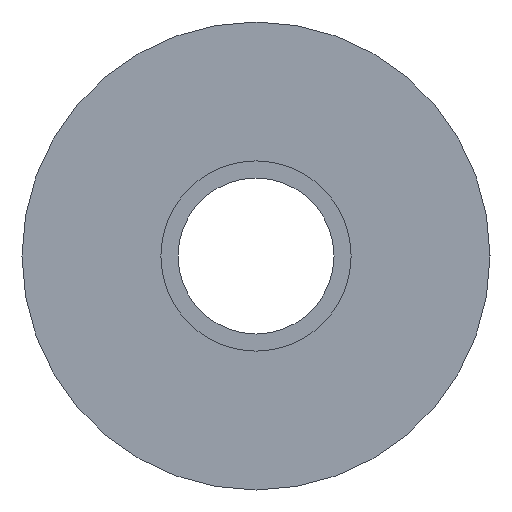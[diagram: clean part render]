
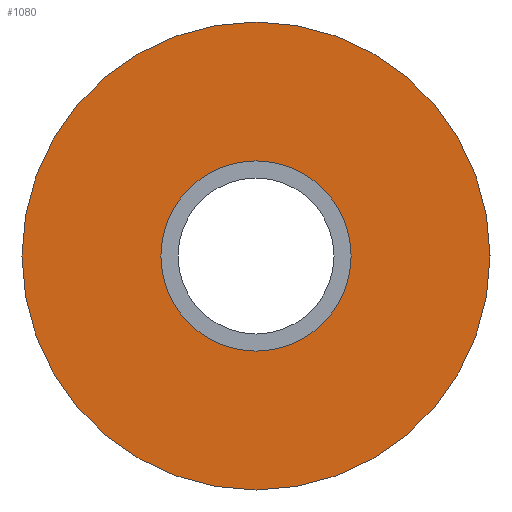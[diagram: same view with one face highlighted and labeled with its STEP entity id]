
A CAD part, left-side view. The second image highlights one B-rep face of the part: STEP entity #1080.
In plain terms, the highlighted planar face has unit normal (-1, 0, 0).
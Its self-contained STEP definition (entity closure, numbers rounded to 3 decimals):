
#130=CARTESIAN_POINT('',(0.0,6.1,0.0));
#131=VERTEX_POINT('',#130);
#140=CARTESIAN_POINT('',(0.0,-6.1,0.));
#141=VERTEX_POINT('',#140);
#142=CARTESIAN_POINT('',(0.0,0.0,0.0));
#143=DIRECTION('',(1.0,0.0,0.0));
#144=DIRECTION('',(0.0,1.0,0.0));
#145=AXIS2_PLACEMENT_3D('',#142,#143,#144);
#146=CIRCLE('',#145,6.1);
#147=EDGE_CURVE('',#141,#131,#146,.T.);
#330=CARTESIAN_POINT('',(0.0,15.0,0.0));
#331=VERTEX_POINT('',#330);
#340=CARTESIAN_POINT('',(0.0,-15.0,0.));
#341=VERTEX_POINT('',#340);
#342=CARTESIAN_POINT('',(0.0,0.0,0.0));
#343=DIRECTION('',(1.0,0.0,0.0));
#344=DIRECTION('',(0.0,1.0,0.0));
#345=AXIS2_PLACEMENT_3D('',#342,#343,#344);
#346=CIRCLE('',#345,15.0);
#347=EDGE_CURVE('',#331,#341,#346,.T.);
#933=CARTESIAN_POINT('',(0.0,0.0,0.0));
#934=DIRECTION('',(1.0,0.0,0.0));
#935=DIRECTION('',(0.0,1.0,0.0));
#936=AXIS2_PLACEMENT_3D('',#933,#934,#935);
#937=CIRCLE('',#936,15.0);
#938=EDGE_CURVE('',#341,#331,#937,.T.);
#1057=CARTESIAN_POINT('',(0.0,0.0,0.0));
#1058=DIRECTION('',(1.0,0.0,0.0));
#1059=DIRECTION('',(0.0,1.0,0.0));
#1060=AXIS2_PLACEMENT_3D('',#1057,#1058,#1059);
#1061=CIRCLE('',#1060,6.1);
#1062=EDGE_CURVE('',#131,#141,#1061,.T.);
#1067=CARTESIAN_POINT('',(0.0,10.55,0.0));
#1068=DIRECTION('',(-1.0,0.0,0.0));
#1069=DIRECTION('',(0.0,0.0,1.0));
#1070=AXIS2_PLACEMENT_3D('',#1067,#1068,#1069);
#1071=PLANE('',#1070);
#1072=ORIENTED_EDGE('',*,*,#347,.F.);
#1073=ORIENTED_EDGE('',*,*,#938,.F.);
#1074=EDGE_LOOP('',(#1072,#1073));
#1075=FACE_OUTER_BOUND('',#1074,.T.);
#1076=ORIENTED_EDGE('',*,*,#1062,.T.);
#1077=ORIENTED_EDGE('',*,*,#147,.T.);
#1078=EDGE_LOOP('',(#1076,#1077));
#1079=FACE_BOUND('',#1078,.T.);
#1080=ADVANCED_FACE('',(#1075,#1079),#1071,.T.);
